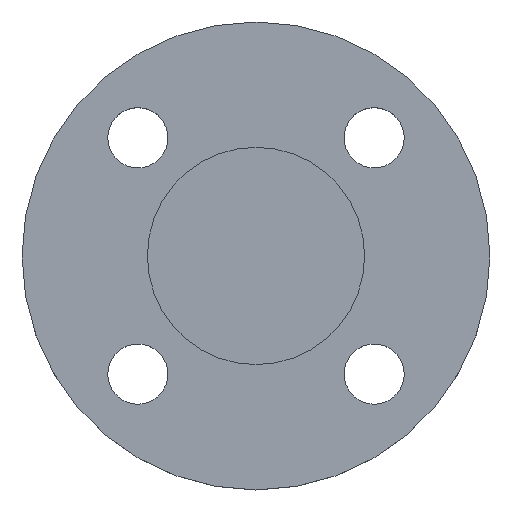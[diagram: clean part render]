
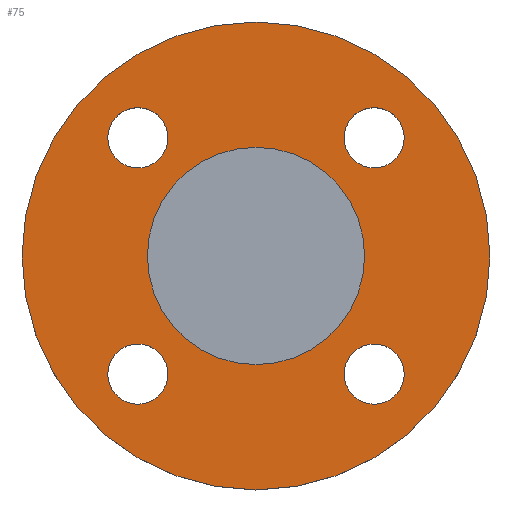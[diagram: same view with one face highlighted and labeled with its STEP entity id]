
A CAD part, top view. The second image highlights one B-rep face of the part: STEP entity #75.
In plain terms, the highlighted planar face has unit normal (0, 0, 1).
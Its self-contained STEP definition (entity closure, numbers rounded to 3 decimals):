
#29 = AXIS2_PLACEMENT_3D ( 'NONE', #422, #614, #162 ) ;
#31 = CARTESIAN_POINT ( 'NONE',  ( -44.355, -35.355, -4.5 ) ) ;
#32 = ORIENTED_EDGE ( 'NONE', *, *, #370, .F. ) ;
#33 = CARTESIAN_POINT ( 'NONE',  ( 0., 0., -4.5 ) ) ;
#36 = ORIENTED_EDGE ( 'NONE', *, *, #317, .T. ) ;
#43 = CIRCLE ( 'NONE', #132, 9. ) ;
#44 = ORIENTED_EDGE ( 'NONE', *, *, #152, .T. ) ;
#46 = DIRECTION ( 'NONE',  ( 0., 0., 1. ) ) ;
#51 = DIRECTION ( 'NONE',  ( 0., 0., -1. ) ) ;
#60 = VERTEX_POINT ( 'NONE', #157 ) ;
#66 = DIRECTION ( 'NONE',  ( 0., 0., -1. ) ) ;
#70 = AXIS2_PLACEMENT_3D ( 'NONE', #437, #630, #181 ) ;
#75 = ADVANCED_FACE ( 'NONE', ( #404, #600, #147, #356, #553, #96 ), #306, .T. ) ;
#77 = DIRECTION ( 'NONE',  ( 1., 0., 0. ) ) ;
#78 = CARTESIAN_POINT ( 'NONE',  ( 32.5, 0., -4.5 ) ) ;
#81 = CARTESIAN_POINT ( 'NONE',  ( -35.355, -35.355, -4.5 ) ) ;
#89 = CARTESIAN_POINT ( 'NONE',  ( 35.355, -35.355, -4.5 ) ) ;
#96 = FACE_OUTER_BOUND ( 'NONE', #363, .T. ) ;
#100 = CARTESIAN_POINT ( 'NONE',  ( 70., 0., -4.5 ) ) ;
#105 = EDGE_LOOP ( 'NONE', ( #565, #208 ) ) ;
#109 = EDGE_LOOP ( 'NONE', ( #44, #328 ) ) ;
#132 = AXIS2_PLACEMENT_3D ( 'NONE', #505, #51, #259 ) ;
#135 = CIRCLE ( 'NONE', #504, 9. ) ;
#142 = CARTESIAN_POINT ( 'NONE',  ( 0., 0., -4.5 ) ) ;
#144 = CIRCLE ( 'NONE', #518, 9. ) ;
#145 = VERTEX_POINT ( 'NONE', #100 ) ;
#147 = FACE_BOUND ( 'NONE', #561, .T. ) ;
#148 = DIRECTION ( 'NONE',  ( 0., 0., -1. ) ) ;
#149 = VERTEX_POINT ( 'NONE', #311 ) ;
#152 = EDGE_CURVE ( 'NONE', #60, #393, #43, .T. ) ;
#154 = VERTEX_POINT ( 'NONE', #459 ) ;
#157 = CARTESIAN_POINT ( 'NONE',  ( -26.355, -35.355, -4.5 ) ) ;
#162 = DIRECTION ( 'NONE',  ( 1., 0., 0. ) ) ;
#163 = CIRCLE ( 'NONE', #540, 9. ) ;
#172 = DIRECTION ( 'NONE',  ( -1., 0., 0. ) ) ;
#173 = EDGE_CURVE ( 'NONE', #154, #400, #268, .T. ) ;
#175 = DIRECTION ( 'NONE',  ( 1., 0., 0. ) ) ;
#181 = DIRECTION ( 'NONE',  ( -1., 0., 0. ) ) ;
#185 = VERTEX_POINT ( 'NONE', #429 ) ;
#186 = CARTESIAN_POINT ( 'NONE',  ( 35.355, 35.355, -4.5 ) ) ;
#190 = AXIS2_PLACEMENT_3D ( 'NONE', #81, #626, #175 ) ;
#208 = ORIENTED_EDGE ( 'NONE', *, *, #270, .T. ) ;
#210 = AXIS2_PLACEMENT_3D ( 'NONE', #89, #298, #492 ) ;
#223 = EDGE_CURVE ( 'NONE', #551, #358, #229, .T. ) ;
#228 = CARTESIAN_POINT ( 'NONE',  ( 26.355, 35.355, -4.5 ) ) ;
#229 = CIRCLE ( 'NONE', #596, 32.5 ) ;
#233 = CARTESIAN_POINT ( 'NONE',  ( -26.355, 35.355, -4.5 ) ) ;
#236 = DIRECTION ( 'NONE',  ( 0., 0., -1. ) ) ;
#246 = ORIENTED_EDGE ( 'NONE', *, *, #173, .T. ) ;
#252 = DIRECTION ( 'NONE',  ( 1., 0., 0. ) ) ;
#259 = DIRECTION ( 'NONE',  ( 1., 0., 0. ) ) ;
#260 = ORIENTED_EDGE ( 'NONE', *, *, #446, .T. ) ;
#264 = ORIENTED_EDGE ( 'NONE', *, *, #539, .F. ) ;
#265 = ORIENTED_EDGE ( 'NONE', *, *, #279, .T. ) ;
#268 = CIRCLE ( 'NONE', #627, 9. ) ;
#269 = CIRCLE ( 'NONE', #629, 70. ) ;
#270 = EDGE_CURVE ( 'NONE', #358, #551, #372, .T. ) ;
#272 = CARTESIAN_POINT ( 'NONE',  ( 26.355, -35.355, -4.5 ) ) ;
#274 = DIRECTION ( 'NONE',  ( 1., 0., 0. ) ) ;
#279 = EDGE_CURVE ( 'NONE', #344, #367, #163, .T. ) ;
#298 = DIRECTION ( 'NONE',  ( 0., 0., -1. ) ) ;
#306 = PLANE ( 'NONE',  #567 ) ;
#311 = CARTESIAN_POINT ( 'NONE',  ( -70., 0., -4.5 ) ) ;
#317 = EDGE_CURVE ( 'NONE', #400, #154, #135, .T. ) ;
#318 = EDGE_LOOP ( 'NONE', ( #265, #490 ) ) ;
#326 = CIRCLE ( 'NONE', #29, 9. ) ;
#327 = EDGE_CURVE ( 'NONE', #393, #60, #474, .T. ) ;
#328 = ORIENTED_EDGE ( 'NONE', *, *, #327, .T. ) ;
#344 = VERTEX_POINT ( 'NONE', #385 ) ;
#353 = DIRECTION ( 'NONE',  ( 0., 0., -1. ) ) ;
#356 = FACE_BOUND ( 'NONE', #318, .T. ) ;
#357 = DIRECTION ( 'NONE',  ( 1., 0., 0. ) ) ;
#358 = VERTEX_POINT ( 'NONE', #78 ) ;
#363 = EDGE_LOOP ( 'NONE', ( #32, #264 ) ) ;
#365 = CIRCLE ( 'NONE', #70, 70. ) ;
#367 = VERTEX_POINT ( 'NONE', #228 ) ;
#370 = EDGE_CURVE ( 'NONE', #145, #149, #365, .T. ) ;
#372 = CIRCLE ( 'NONE', #455, 32.5 ) ;
#383 = CARTESIAN_POINT ( 'NONE',  ( -35.355, 35.355, -4.5 ) ) ;
#385 = CARTESIAN_POINT ( 'NONE',  ( 44.355, 35.355, -4.5 ) ) ;
#392 = DIRECTION ( 'NONE',  ( 0., 0., -1. ) ) ;
#393 = VERTEX_POINT ( 'NONE', #31 ) ;
#400 = VERTEX_POINT ( 'NONE', #233 ) ;
#404 = FACE_BOUND ( 'NONE', #541, .T. ) ;
#405 = CARTESIAN_POINT ( 'NONE',  ( -32.5, 0., -4.5 ) ) ;
#422 = CARTESIAN_POINT ( 'NONE',  ( 35.355, 35.355, -4.5 ) ) ;
#429 = CARTESIAN_POINT ( 'NONE',  ( 44.355, -35.355, -4.5 ) ) ;
#432 = CARTESIAN_POINT ( 'NONE',  ( 0., 0., -4.5 ) ) ;
#437 = CARTESIAN_POINT ( 'NONE',  ( 0., 0., -4.5 ) ) ;
#443 = DIRECTION ( 'NONE',  ( -1., 0., 0. ) ) ;
#446 = EDGE_CURVE ( 'NONE', #598, #185, #495, .T. ) ;
#455 = AXIS2_PLACEMENT_3D ( 'NONE', #33, #236, #443 ) ;
#459 = CARTESIAN_POINT ( 'NONE',  ( -44.355, 35.355, -4.5 ) ) ;
#474 = CIRCLE ( 'NONE', #190, 9. ) ;
#490 = ORIENTED_EDGE ( 'NONE', *, *, #566, .T. ) ;
#492 = DIRECTION ( 'NONE',  ( 1., 0., 0. ) ) ;
#495 = CIRCLE ( 'NONE', #210, 9. ) ;
#502 = CARTESIAN_POINT ( 'NONE',  ( 32.5, 0., -4.5 ) ) ;
#504 = AXIS2_PLACEMENT_3D ( 'NONE', #383, #530, #77 ) ;
#505 = CARTESIAN_POINT ( 'NONE',  ( -35.355, -35.355, -4.5 ) ) ;
#518 = AXIS2_PLACEMENT_3D ( 'NONE', #601, #148, #357 ) ;
#523 = CARTESIAN_POINT ( 'NONE',  ( -35.355, 35.355, -4.5 ) ) ;
#528 = DIRECTION ( 'NONE',  ( 1., 0., 0. ) ) ;
#530 = DIRECTION ( 'NONE',  ( 0., 0., -1. ) ) ;
#539 = EDGE_CURVE ( 'NONE', #149, #145, #269, .T. ) ;
#540 = AXIS2_PLACEMENT_3D ( 'NONE', #186, #392, #528 ) ;
#541 = EDGE_LOOP ( 'NONE', ( #633, #260 ) ) ;
#550 = DIRECTION ( 'NONE',  ( -1., 0., 0. ) ) ;
#551 = VERTEX_POINT ( 'NONE', #405 ) ;
#553 = FACE_BOUND ( 'NONE', #105, .T. ) ;
#554 = EDGE_CURVE ( 'NONE', #185, #598, #144, .T. ) ;
#561 = EDGE_LOOP ( 'NONE', ( #36, #246 ) ) ;
#565 = ORIENTED_EDGE ( 'NONE', *, *, #223, .T. ) ;
#566 = EDGE_CURVE ( 'NONE', #367, #344, #326, .T. ) ;
#567 = AXIS2_PLACEMENT_3D ( 'NONE', #502, #46, #252 ) ;
#596 = AXIS2_PLACEMENT_3D ( 'NONE', #432, #623, #172 ) ;
#598 = VERTEX_POINT ( 'NONE', #272 ) ;
#600 = FACE_BOUND ( 'NONE', #109, .T. ) ;
#601 = CARTESIAN_POINT ( 'NONE',  ( 35.355, -35.355, -4.5 ) ) ;
#614 = DIRECTION ( 'NONE',  ( 0., 0., -1. ) ) ;
#623 = DIRECTION ( 'NONE',  ( 0., 0., -1. ) ) ;
#626 = DIRECTION ( 'NONE',  ( 0., 0., -1. ) ) ;
#627 = AXIS2_PLACEMENT_3D ( 'NONE', #523, #66, #274 ) ;
#629 = AXIS2_PLACEMENT_3D ( 'NONE', #142, #353, #550 ) ;
#630 = DIRECTION ( 'NONE',  ( 0., 0., -1. ) ) ;
#633 = ORIENTED_EDGE ( 'NONE', *, *, #554, .T. ) ;
